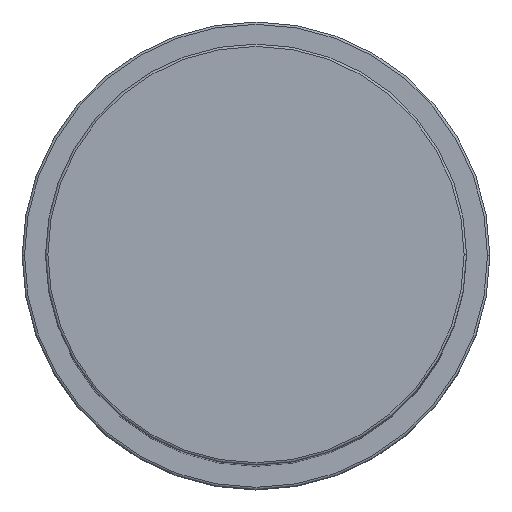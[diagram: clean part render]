
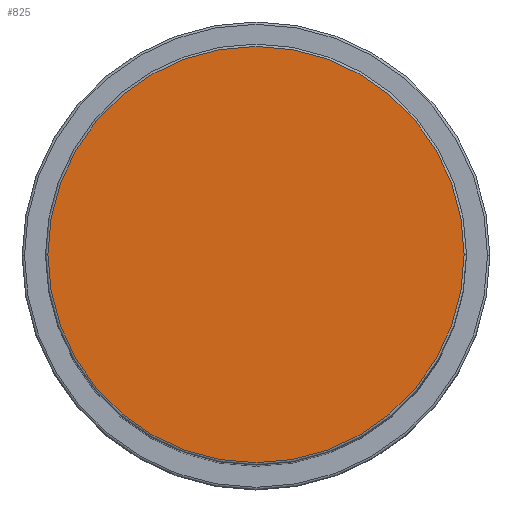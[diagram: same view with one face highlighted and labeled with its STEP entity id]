
A CAD part, top view. The second image highlights one B-rep face of the part: STEP entity #825.
In plain terms, the highlighted planar face has unit normal (0, 0, 1).
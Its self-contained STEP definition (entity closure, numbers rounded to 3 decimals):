
#2 = EDGE_LOOP ( 'NONE', ( #1385, #343 ) ) ;
#37 = CIRCLE ( 'NONE', #854, 44.5 ) ;
#70 = CARTESIAN_POINT ( 'NONE',  ( 44.5, 0., 174. ) ) ;
#111 = DIRECTION ( 'NONE',  ( 0., 0., 1. ) ) ;
#150 = DIRECTION ( 'NONE',  ( 0., 0., 1. ) ) ;
#192 = CIRCLE ( 'NONE', #288, 44.5 ) ;
#259 = VERTEX_POINT ( 'NONE', #70 ) ;
#288 = AXIS2_PLACEMENT_3D ( 'NONE', #788, #150, #547 ) ;
#343 = ORIENTED_EDGE ( 'NONE', *, *, #524, .T. ) ;
#368 = PLANE ( 'NONE',  #624 ) ;
#407 = VERTEX_POINT ( 'NONE', #1273 ) ;
#411 = DIRECTION ( 'NONE',  ( 0., 0., 1. ) ) ;
#417 = FACE_OUTER_BOUND ( 'NONE', #2, .T. ) ;
#519 = CARTESIAN_POINT ( 'NONE',  ( 0., 0., 174. ) ) ;
#524 = EDGE_CURVE ( 'NONE', #407, #259, #192, .T. ) ;
#547 = DIRECTION ( 'NONE',  ( 1., 0., 0. ) ) ;
#624 = AXIS2_PLACEMENT_3D ( 'NONE', #997, #111, #999 ) ;
#788 = CARTESIAN_POINT ( 'NONE',  ( 0., 0., 174. ) ) ;
#825 = ADVANCED_FACE ( 'NONE', ( #417 ), #368, .T. ) ;
#854 = AXIS2_PLACEMENT_3D ( 'NONE', #519, #411, #900 ) ;
#900 = DIRECTION ( 'NONE',  ( 1., 0., 0. ) ) ;
#987 = EDGE_CURVE ( 'NONE', #259, #407, #37, .T. ) ;
#997 = CARTESIAN_POINT ( 'NONE',  ( 0., 0., 174. ) ) ;
#999 = DIRECTION ( 'NONE',  ( 1., 0., 0. ) ) ;
#1273 = CARTESIAN_POINT ( 'NONE',  ( -44.5, 0., 174. ) ) ;
#1385 = ORIENTED_EDGE ( 'NONE', *, *, #987, .T. ) ;
